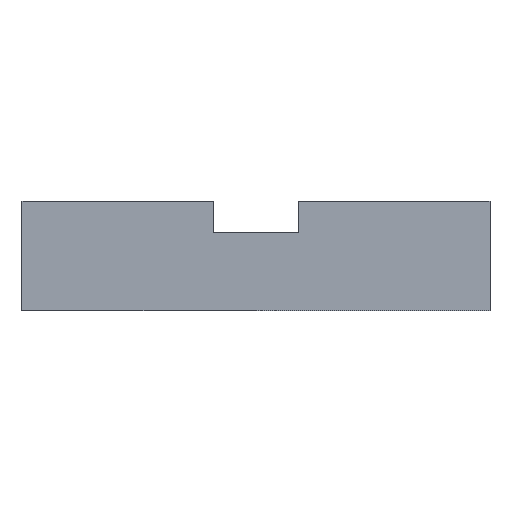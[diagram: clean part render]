
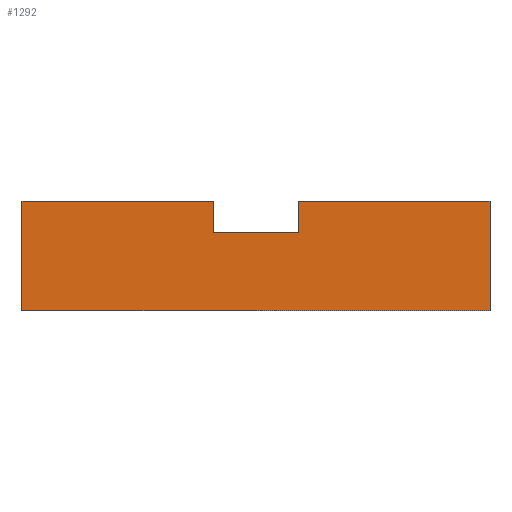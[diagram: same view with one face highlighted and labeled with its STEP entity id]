
A CAD part, front view. The second image highlights one B-rep face of the part: STEP entity #1292.
In plain terms, the highlighted planar face has unit normal (0, -1, 0).
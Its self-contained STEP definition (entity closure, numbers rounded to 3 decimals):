
#849 = VERTEX_POINT('',#850);
#850 = CARTESIAN_POINT('',(2.75,-91.,6.5));
#856 = EDGE_CURVE('',#849,#857,#859,.T.);
#857 = VERTEX_POINT('',#858);
#858 = CARTESIAN_POINT('',(15.,-91.,6.5));
#859 = LINE('',#860,#861);
#860 = CARTESIAN_POINT('',(0.,-91.,6.5));
#861 = VECTOR('',#862,1.);
#862 = DIRECTION('',(1.,-0.,-0.));
#977 = VERTEX_POINT('',#978);
#978 = CARTESIAN_POINT('',(-15.,-91.,6.5));
#984 = EDGE_CURVE('',#985,#977,#987,.T.);
#985 = VERTEX_POINT('',#986);
#986 = CARTESIAN_POINT('',(-2.75,-91.,6.5));
#987 = LINE('',#988,#989);
#988 = CARTESIAN_POINT('',(15.,-91.,6.5));
#989 = VECTOR('',#990,1.);
#990 = DIRECTION('',(-1.,-0.,-0.));
#1029 = EDGE_CURVE('',#1030,#985,#1032,.T.);
#1030 = VERTEX_POINT('',#1031);
#1031 = CARTESIAN_POINT('',(-2.75,-91.,4.9));
#1032 = LINE('',#1033,#1034);
#1033 = CARTESIAN_POINT('',(-2.75,-91.,4.9));
#1034 = VECTOR('',#1035,1.);
#1035 = DIRECTION('',(-0.,0.,1.));
#1063 = VERTEX_POINT('',#1064);
#1064 = CARTESIAN_POINT('',(-15.,-91.,4.9));
#1070 = EDGE_CURVE('',#1063,#977,#1071,.T.);
#1071 = LINE('',#1072,#1073);
#1072 = CARTESIAN_POINT('',(-15.,-91.,5.5));
#1073 = VECTOR('',#1074,1.);
#1074 = DIRECTION('',(0.,0.,1.));
#1096 = VERTEX_POINT('',#1097);
#1097 = CARTESIAN_POINT('',(2.75,-91.,4.9));
#1103 = EDGE_CURVE('',#1096,#849,#1104,.T.);
#1104 = LINE('',#1105,#1106);
#1105 = CARTESIAN_POINT('',(2.75,-91.,5.5));
#1106 = VECTOR('',#1107,1.);
#1107 = DIRECTION('',(-0.,0.,1.));
#1128 = EDGE_CURVE('',#1129,#857,#1131,.T.);
#1129 = VERTEX_POINT('',#1130);
#1130 = CARTESIAN_POINT('',(15.,-91.,4.9));
#1131 = LINE('',#1132,#1133);
#1132 = CARTESIAN_POINT('',(15.,-91.,4.9));
#1133 = VECTOR('',#1134,1.);
#1134 = DIRECTION('',(-0.,0.,1.));
#1162 = VERTEX_POINT('',#1163);
#1163 = CARTESIAN_POINT('',(-2.75,-91.,4.5));
#1169 = EDGE_CURVE('',#1162,#1170,#1172,.T.);
#1170 = VERTEX_POINT('',#1171);
#1171 = CARTESIAN_POINT('',(2.75,-91.,4.5));
#1172 = LINE('',#1173,#1174);
#1173 = CARTESIAN_POINT('',(-2.75,-91.,4.5));
#1174 = VECTOR('',#1175,1.);
#1175 = DIRECTION('',(1.,0.,0.));
#1210 = VERTEX_POINT('',#1211);
#1211 = CARTESIAN_POINT('',(15.,-91.,-0.5));
#1217 = EDGE_CURVE('',#1218,#1210,#1220,.T.);
#1218 = VERTEX_POINT('',#1219);
#1219 = CARTESIAN_POINT('',(-15.,-91.,-0.5));
#1220 = LINE('',#1221,#1222);
#1221 = CARTESIAN_POINT('',(0.,-91.,-0.5));
#1222 = VECTOR('',#1223,1.);
#1223 = DIRECTION('',(1.,0.,0.));
#1280 = EDGE_CURVE('',#1210,#1129,#1281,.T.);
#1281 = LINE('',#1282,#1283);
#1282 = CARTESIAN_POINT('',(15.,-91.,5.5));
#1283 = VECTOR('',#1284,1.);
#1284 = DIRECTION('',(0.,0.,1.));
#1292 = ADVANCED_FACE('',(#1293),#1322,.F.);
#1293 = FACE_BOUND('',#1294,.T.);
#1294 = EDGE_LOOP('',(#1295,#1296,#1297,#1298,#1299,#1305,#1306,#1312,
    #1313,#1314,#1315,#1321));
#1295 = ORIENTED_EDGE('',*,*,#1280,.T.);
#1296 = ORIENTED_EDGE('',*,*,#1128,.T.);
#1297 = ORIENTED_EDGE('',*,*,#856,.F.);
#1298 = ORIENTED_EDGE('',*,*,#1103,.F.);
#1299 = ORIENTED_EDGE('',*,*,#1300,.F.);
#1300 = EDGE_CURVE('',#1170,#1096,#1301,.T.);
#1301 = LINE('',#1302,#1303);
#1302 = CARTESIAN_POINT('',(2.75,-91.,46.));
#1303 = VECTOR('',#1304,1.);
#1304 = DIRECTION('',(0.,0.,1.));
#1305 = ORIENTED_EDGE('',*,*,#1169,.F.);
#1306 = ORIENTED_EDGE('',*,*,#1307,.T.);
#1307 = EDGE_CURVE('',#1162,#1030,#1308,.T.);
#1308 = LINE('',#1309,#1310);
#1309 = CARTESIAN_POINT('',(-2.75,-91.,5.5));
#1310 = VECTOR('',#1311,1.);
#1311 = DIRECTION('',(0.,0.,1.));
#1312 = ORIENTED_EDGE('',*,*,#1029,.T.);
#1313 = ORIENTED_EDGE('',*,*,#984,.T.);
#1314 = ORIENTED_EDGE('',*,*,#1070,.F.);
#1315 = ORIENTED_EDGE('',*,*,#1316,.T.);
#1316 = EDGE_CURVE('',#1063,#1218,#1317,.T.);
#1317 = LINE('',#1318,#1319);
#1318 = CARTESIAN_POINT('',(-15.,-91.,5.5));
#1319 = VECTOR('',#1320,1.);
#1320 = DIRECTION('',(0.,0.,-1.));
#1321 = ORIENTED_EDGE('',*,*,#1217,.T.);
#1322 = PLANE('',#1323);
#1323 = AXIS2_PLACEMENT_3D('',#1324,#1325,#1326);
#1324 = CARTESIAN_POINT('',(0.,-91.,5.5));
#1325 = DIRECTION('',(0.,1.,0.));
#1326 = DIRECTION('',(0.,0.,1.));
